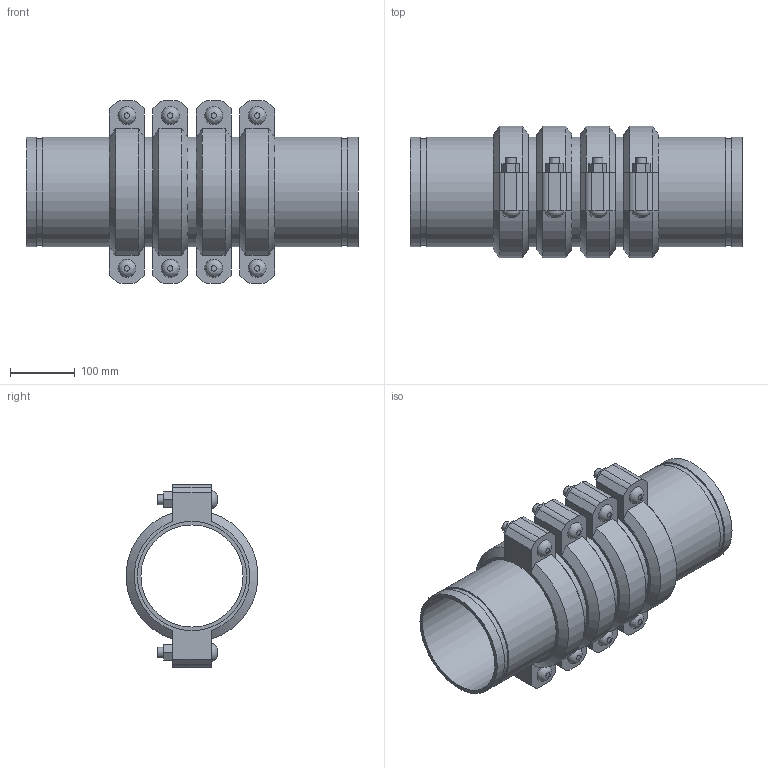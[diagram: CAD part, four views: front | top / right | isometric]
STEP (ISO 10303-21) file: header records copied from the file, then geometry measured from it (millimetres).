
FILE_DESCRIPTION(/* description */ ('VIC SS EXPANSION JOINT 4 COUPLINGS EXPANDED STYLE 155P (OGS) (POTABLE WATER) ','CAx-IF Rec.Pracs.---Representation and Presentation of Product Manufacturing Information (PMI)---4.0---2014-10-13'),/* implementation_level */ '2;1');
FILE_NAME(/* name */ 'C:\Users\kkamble\AppData\Roaming\Autodesk\ApplicationPlugins\Victaulic.Temp\A557\Victaulic_SS_Expansion Joint_Expanded_4 Couplings_Style 155P (OGS)-Potable Water_4 Coup_Expd_6 (150).stp',/* time_stamp */ '2021-07-16T16:51:33+05:00',/* author */ ('kkamble'),/* organization */ ('Victaulic'),/* preprocessor_version */ 'ST-DEVELOPER v17.2',/* originating_system */ 'Autodesk Inventor 2019',/* authorisation */ '');
FILE_SCHEMA (('AP242_MANAGED_MODEL_BASED_3D_ENGINEERING_MIM_LF { 1 0 10303 442 1 1 4 }'));
Length unit declared in the file: inch
Products named in the file (4): 155P-06.0; Nipple-06.0; Nipple-06.0_1; 075-06.0
Assembly tree (9 placements, depth 2):
  155P-06.0
    Nipple-06.0  x2
    Nipple-06.0_1  x3
    075-06.0  x4
Bounding box: 510.79 x 202.46 x 281.18 mm (x, y, z)
Volume: 4327726.6 mm3; surface area: 1011161.5 mm2
Topology: 9 solids, 17 shells, 288 faces, 682 edges, 480 vertices
Faces by surface type: plane 174, cylinder 90, cone 16, bspline 8
Full cylindrical faces by diameter (mm): 15.875 x16, 17.424 x8, 157.15 x5, 161.925 x4, 163.957 x10, 168.275 x23
Entity records: 2776 total; most frequent: CARTESIAN_POINT 493, DIRECTION 461, ORIENTED_EDGE 386, EDGE_CURVE 193, AXIS2_PLACEMENT_3D 184, VERTEX_POINT 138, EDGE_LOOP 107, LINE 93
